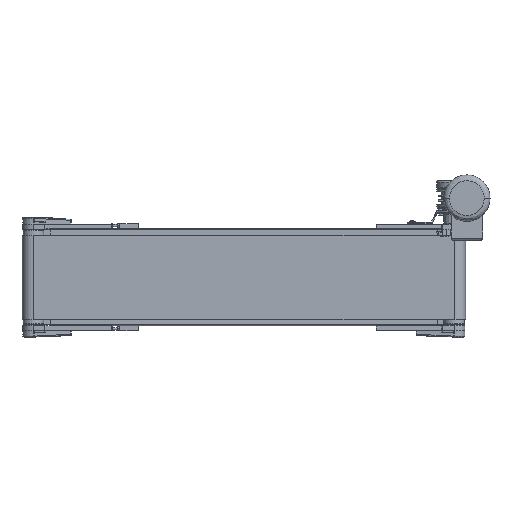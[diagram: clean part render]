
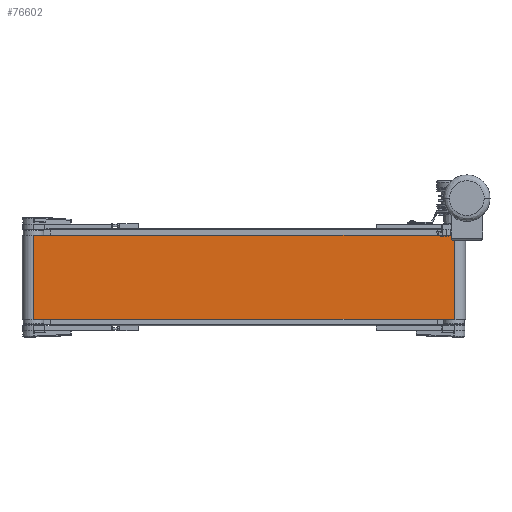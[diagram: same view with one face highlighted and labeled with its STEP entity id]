
A CAD part, front view. The second image highlights one B-rep face of the part: STEP entity #76602.
In plain terms, the highlighted planar face has unit normal (0, -1, 0).
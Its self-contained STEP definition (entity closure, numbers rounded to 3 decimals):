
#4401 = EDGE_LOOP ( 'NONE', ( #129515, #126671, #101365, #36601 ) ) ;
#7473 = CARTESIAN_POINT ( 'NONE',  ( -500., -27., -100. ) ) ;
#14001 = EDGE_CURVE ( 'NONE', #70997, #75203, #82434, .T. ) ;
#17994 = DIRECTION ( 'NONE',  ( 0., 0., -1. ) ) ;
#30175 = CARTESIAN_POINT ( 'NONE',  ( -500., -27., 100. ) ) ;
#30302 = CARTESIAN_POINT ( 'NONE',  ( -500., -27., -100. ) ) ;
#36601 = ORIENTED_EDGE ( 'NONE', *, *, #14001, .T. ) ;
#37338 = FACE_OUTER_BOUND ( 'NONE', #4401, .T. ) ;
#38676 = DIRECTION ( 'NONE',  ( 0., 1., 0. ) ) ;
#44786 = CARTESIAN_POINT ( 'NONE',  ( -500., -27., 100. ) ) ;
#49033 = VERTEX_POINT ( 'NONE', #95789 ) ;
#61639 = VECTOR ( 'NONE', #17994, 1000. ) ;
#65488 = VECTOR ( 'NONE', #86835, 1000. ) ;
#69729 = VERTEX_POINT ( 'NONE', #85493 ) ;
#70343 = DIRECTION ( 'NONE',  ( 0., 0., -1. ) ) ;
#70997 = VERTEX_POINT ( 'NONE', #125454 ) ;
#73006 = CARTESIAN_POINT ( 'NONE',  ( 500., -27., 100. ) ) ;
#75203 = VERTEX_POINT ( 'NONE', #30302 ) ;
#76602 = ADVANCED_FACE ( 'NONE', ( #37338 ), #78081, .F. ) ;
#78081 = PLANE ( 'NONE',  #84799 ) ;
#82434 = LINE ( 'NONE', #30175, #61639 ) ;
#84799 = AXIS2_PLACEMENT_3D ( 'NONE', #109307, #38676, #120157 ) ;
#85493 = CARTESIAN_POINT ( 'NONE',  ( 500., -27., -100. ) ) ;
#85505 = LINE ( 'NONE', #44786, #65488 ) ;
#86835 = DIRECTION ( 'NONE',  ( 1., 0., 0. ) ) ;
#87683 = VECTOR ( 'NONE', #99157, 1000. ) ;
#90364 = EDGE_CURVE ( 'NONE', #70997, #49033, #85505, .T. ) ;
#93384 = EDGE_CURVE ( 'NONE', #75203, #69729, #132406, .T. ) ;
#95789 = CARTESIAN_POINT ( 'NONE',  ( 500., -27., 100. ) ) ;
#99157 = DIRECTION ( 'NONE',  ( 1., 0., 0. ) ) ;
#101077 = EDGE_CURVE ( 'NONE', #49033, #69729, #134145, .T. ) ;
#101365 = ORIENTED_EDGE ( 'NONE', *, *, #90364, .F. ) ;
#103809 = VECTOR ( 'NONE', #70343, 1000. ) ;
#109307 = CARTESIAN_POINT ( 'NONE',  ( -500., -27., 100. ) ) ;
#120157 = DIRECTION ( 'NONE',  ( 0., 0., 1. ) ) ;
#125454 = CARTESIAN_POINT ( 'NONE',  ( -500., -27., 100. ) ) ;
#126671 = ORIENTED_EDGE ( 'NONE', *, *, #101077, .F. ) ;
#129515 = ORIENTED_EDGE ( 'NONE', *, *, #93384, .T. ) ;
#132406 = LINE ( 'NONE', #7473, #87683 ) ;
#134145 = LINE ( 'NONE', #73006, #103809 ) ;
